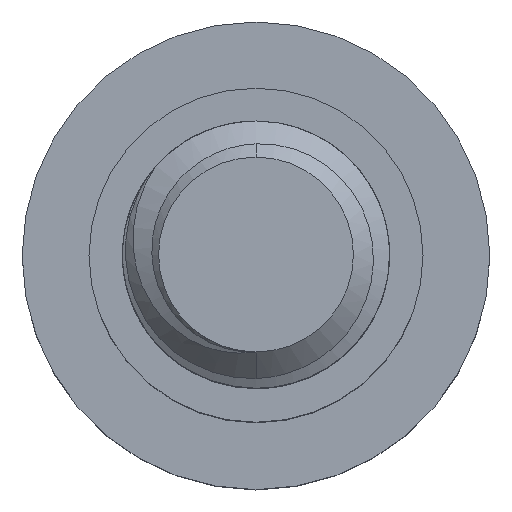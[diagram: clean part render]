
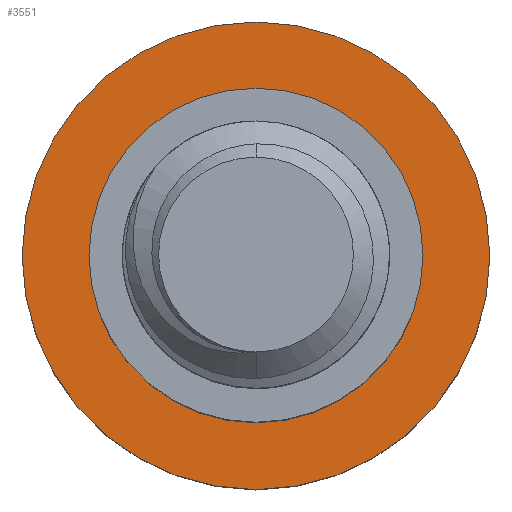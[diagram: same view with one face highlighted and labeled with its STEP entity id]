
A CAD part, top view. The second image highlights one B-rep face of the part: STEP entity #3551.
In plain terms, the highlighted planar face has unit normal (0, 0, 1).
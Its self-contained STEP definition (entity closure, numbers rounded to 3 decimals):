
#62 = CARTESIAN_POINT ( 'NONE',  ( 5., 0., -10. ) ) ;
#114 = FACE_OUTER_BOUND ( 'NONE', #2773, .T. ) ;
#152 = CARTESIAN_POINT ( 'NONE',  ( 0., 0., -10. ) ) ;
#231 = EDGE_CURVE ( 'NONE', #327, #2267, #1218, .T. ) ;
#327 = VERTEX_POINT ( 'NONE', #4085 ) ;
#454 = FACE_BOUND ( 'NONE', #3187, .T. ) ;
#487 = DIRECTION ( 'NONE',  ( 0., 0., -1. ) ) ;
#629 = CARTESIAN_POINT ( 'NONE',  ( 7., 0., -10. ) ) ;
#878 = AXIS2_PLACEMENT_3D ( 'NONE', #3724, #1458, #3017 ) ;
#1019 = CIRCLE ( 'NONE', #1366, 7. ) ;
#1117 = DIRECTION ( 'NONE',  ( -1., 0., 0. ) ) ;
#1218 = CIRCLE ( 'NONE', #1557, 7. ) ;
#1276 = DIRECTION ( 'NONE',  ( -1., 0., 0. ) ) ;
#1366 = AXIS2_PLACEMENT_3D ( 'NONE', #2194, #1550, #2863 ) ;
#1417 = PLANE ( 'NONE',  #3544 ) ;
#1458 = DIRECTION ( 'NONE',  ( 0., 0., -1. ) ) ;
#1470 = EDGE_CURVE ( 'NONE', #3658, #2815, #4095, .T. ) ;
#1550 = DIRECTION ( 'NONE',  ( 0., 0., -1. ) ) ;
#1557 = AXIS2_PLACEMENT_3D ( 'NONE', #2888, #1620, #1276 ) ;
#1620 = DIRECTION ( 'NONE',  ( 0., 0., -1. ) ) ;
#1634 = CIRCLE ( 'NONE', #1905, 5. ) ;
#1905 = AXIS2_PLACEMENT_3D ( 'NONE', #2821, #487, #4127 ) ;
#2096 = ORIENTED_EDGE ( 'NONE', *, *, #1470, .T. ) ;
#2194 = CARTESIAN_POINT ( 'NONE',  ( 0., 0., -10. ) ) ;
#2221 = ORIENTED_EDGE ( 'NONE', *, *, #3009, .F. ) ;
#2267 = VERTEX_POINT ( 'NONE', #629 ) ;
#2527 = ORIENTED_EDGE ( 'NONE', *, *, #3952, .T. ) ;
#2773 = EDGE_LOOP ( 'NONE', ( #2221, #2894 ) ) ;
#2815 = VERTEX_POINT ( 'NONE', #3538 ) ;
#2821 = CARTESIAN_POINT ( 'NONE',  ( 0., 0., -10. ) ) ;
#2863 = DIRECTION ( 'NONE',  ( -1., 0., 0. ) ) ;
#2888 = CARTESIAN_POINT ( 'NONE',  ( 0., 0., -10. ) ) ;
#2894 = ORIENTED_EDGE ( 'NONE', *, *, #231, .F. ) ;
#3009 = EDGE_CURVE ( 'NONE', #2267, #327, #1019, .T. ) ;
#3017 = DIRECTION ( 'NONE',  ( -1., 0., 0. ) ) ;
#3187 = EDGE_LOOP ( 'NONE', ( #2527, #2096 ) ) ;
#3538 = CARTESIAN_POINT ( 'NONE',  ( -5., 0., -10. ) ) ;
#3544 = AXIS2_PLACEMENT_3D ( 'NONE', #152, #3747, #1117 ) ;
#3551 = ADVANCED_FACE ( 'NONE', ( #454, #114 ), #1417, .F. ) ;
#3658 = VERTEX_POINT ( 'NONE', #62 ) ;
#3724 = CARTESIAN_POINT ( 'NONE',  ( 0., 0., -10. ) ) ;
#3747 = DIRECTION ( 'NONE',  ( 0., 0., -1. ) ) ;
#3952 = EDGE_CURVE ( 'NONE', #2815, #3658, #1634, .T. ) ;
#4085 = CARTESIAN_POINT ( 'NONE',  ( -7., 0., -10. ) ) ;
#4095 = CIRCLE ( 'NONE', #878, 5. ) ;
#4127 = DIRECTION ( 'NONE',  ( -1., 0., 0. ) ) ;
